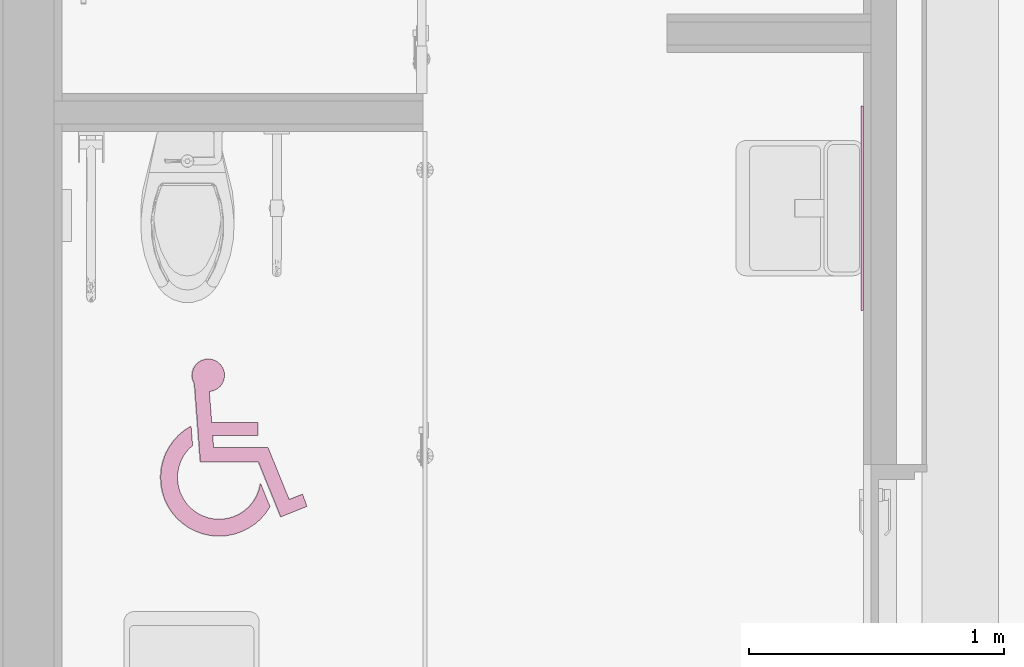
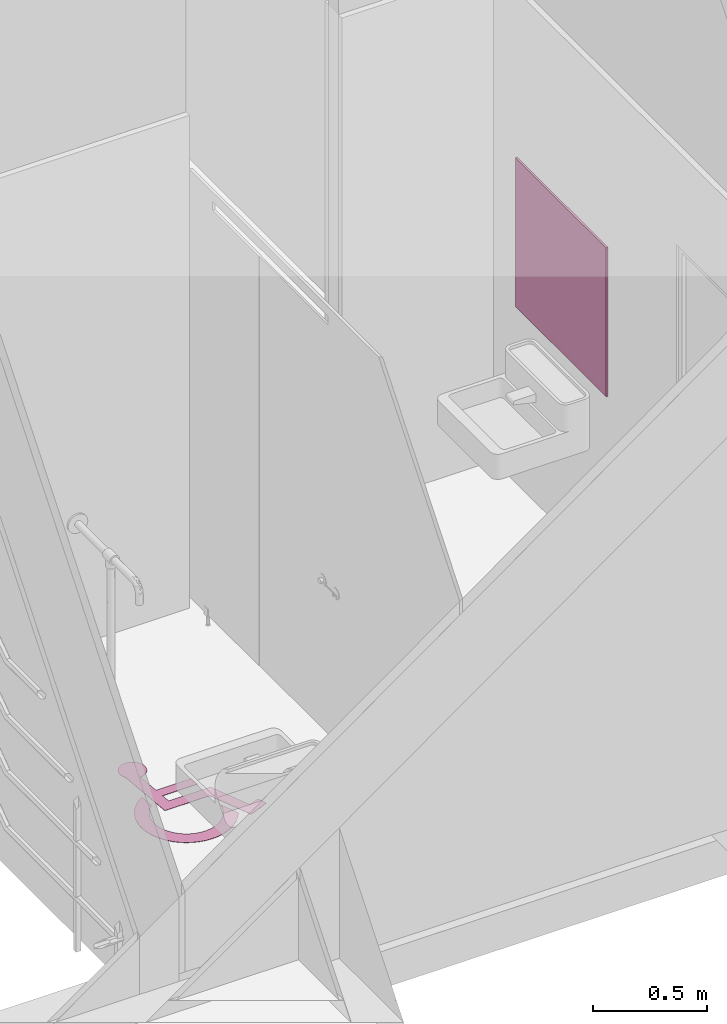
# One storey, part 72 of 74: 2 furnishings.
"""IFC2X3 building model written with IfcOpenShell, lengths in millimetres."""

from ifc_helpers import new_model, entity, si_unit, converted_unit, derived_unit, direction, frame, frame_2d, origin, origin_2d_with_axis, place, context, subcontext, project, spatial, polyline, circle_curve, parameter, trimmed, segment, composite_curve, rectangle, outline, extrude, source, transform, mapped, material, material_list, type_object, type_shapes, element, save


model = new_model("IFC2X3")

# Units and contexts
model_context = context("Model", 3, precision=0.01, world=origin(), true_north=direction((6.123031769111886e-17, 1.0)))
body_context = subcontext(model_context, "Body", "Model", "MODEL_VIEW")
ifc_project = project(units=[si_unit("LENGTHUNIT", "METRE", prefix="MILLI"), si_unit("AREAUNIT", "SQUARE_METRE"), si_unit("VOLUMEUNIT", "CUBIC_METRE"), converted_unit("PLANEANGLEUNIT", "DEGREE", entity("IfcRatioMeasure", 0.017453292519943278), si_unit("PLANEANGLEUNIT", "RADIAN"), dimensions=[0, 0, 0, 0, 0, 0, 0]), si_unit("MASSUNIT", "GRAM", prefix="KILO"), derived_unit("MASSDENSITYUNIT", [(si_unit("MASSUNIT", "GRAM", prefix="KILO"), 1), (si_unit("LENGTHUNIT", "METRE"), -3)]), derived_unit("MOMENTOFINERTIAUNIT", [(si_unit("LENGTHUNIT", "METRE"), 4)]), si_unit("TIMEUNIT", "SECOND"), si_unit("FREQUENCYUNIT", "HERTZ"), si_unit("THERMODYNAMICTEMPERATUREUNIT", "DEGREE_CELSIUS"), derived_unit("THERMALTRANSMITTANCEUNIT", [(si_unit("MASSUNIT", "GRAM", prefix="KILO"), 1), (si_unit("THERMODYNAMICTEMPERATUREUNIT", "KELVIN"), -1), (si_unit("TIMEUNIT", "SECOND"), -3)]), derived_unit("VOLUMETRICFLOWRATEUNIT", [(si_unit("LENGTHUNIT", "METRE"), 3), (si_unit("TIMEUNIT", "SECOND"), -1)]), derived_unit("MASSFLOWRATEUNIT", [(si_unit("MASSUNIT", "GRAM", prefix="KILO"), 1), (si_unit("TIMEUNIT", "SECOND"), -1)]), derived_unit("ROTATIONALFREQUENCYUNIT", [(si_unit("TIMEUNIT", "SECOND"), -1)]), si_unit("ELECTRICCURRENTUNIT", "AMPERE"), si_unit("ELECTRICVOLTAGEUNIT", "VOLT"), si_unit("POWERUNIT", "WATT"), si_unit("FORCEUNIT", "NEWTON", prefix="KILO"), si_unit("ILLUMINANCEUNIT", "LUX"), si_unit("LUMINOUSFLUXUNIT", "LUMEN"), si_unit("LUMINOUSINTENSITYUNIT", "CANDELA"), derived_unit("USERDEFINED", [(si_unit("MASSUNIT", "GRAM", prefix="KILO"), -1), (si_unit("LENGTHUNIT", "METRE"), -2), (si_unit("TIMEUNIT", "SECOND"), 3), (si_unit("LUMINOUSFLUXUNIT", "LUMEN"), 1)]), derived_unit("SOUNDPOWERUNIT", [(si_unit("MASSUNIT", "GRAM", prefix="KILO"), 1), (si_unit("LENGTHUNIT", "METRE"), 2), (si_unit("TIMEUNIT", "SECOND"), -3)]), derived_unit("SOUNDPRESSUREUNIT", [(si_unit("MASSUNIT", "GRAM", prefix="KILO"), 1), (si_unit("LENGTHUNIT", "METRE"), -1), (si_unit("TIMEUNIT", "SECOND"), -2)]), derived_unit("LINEARVELOCITYUNIT", [(si_unit("LENGTHUNIT", "METRE"), 1), (si_unit("TIMEUNIT", "SECOND"), -1)]), si_unit("PRESSUREUNIT", "PASCAL"), derived_unit("USERDEFINED", [(si_unit("LENGTHUNIT", "METRE"), -2), (si_unit("MASSUNIT", "GRAM", prefix="KILO"), 1), (si_unit("TIMEUNIT", "SECOND"), -2)]), derived_unit("LINEARFORCEUNIT", [(si_unit("MASSUNIT", "GRAM", prefix="KILO"), 1), (si_unit("LENGTHUNIT", "METRE"), 1), (si_unit("TIMEUNIT", "SECOND"), -2), (si_unit("LENGTHUNIT", "METRE"), -1)]), derived_unit("PLANARFORCEUNIT", [(si_unit("MASSUNIT", "GRAM", prefix="KILO"), 1), (si_unit("LENGTHUNIT", "METRE"), 1), (si_unit("TIMEUNIT", "SECOND"), -2), (si_unit("LENGTHUNIT", "METRE"), -2)])], contexts=[model_context])

# Site, building, storey, space
site_placement = place(None, frame((-14167.972527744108, -657.2125860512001, 0.0)))
site = spatial("IfcSite", under=ifc_project, at=site_placement, Name="Default", CompositionType="ELEMENT")
building_placement = place(site_placement, origin())
building = spatial("IfcBuilding", under=site, at=building_placement, Name="Sample Building", CompositionType="ELEMENT")
storey_placement = place(building_placement, frame((0.0, 0.0, 4800.0)))
storey = spatial("IfcBuildingStorey", under=building, at=storey_placement, Name="지상 2층", CompositionType="ELEMENT", Elevation=4800.000000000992)
space_placement = place(storey_placement, origin())
space = spatial("IfcSpace", under=storey, at=space_placement, Name="188", CompositionType="ELEMENT", InteriorOrExteriorSpace="INTERNAL")

# Furnishings
ifc_material_1 = material(Name="KBIMS-거울")
furniture_type_1 = type_object("IfcFurnitureType", Name="PF531-거울:PF531-거울 800x800", material=ifc_material_1)
shared_shape_1 = source(origin(), body_context, "Body", "SweptSolid", [
    extrude(rectangle(XDim=10.000000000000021, YDim=799.9999999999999, at=origin_2d_with_axis()), frame((0.0, 5.0, 0.0), z_axis=(0.0, 0.0, 1.0), x_axis=(0.0, 1.0, 0.0)), (0.0, 0.0, 1.0), 800.0000000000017),
])
type_shapes(furniture_type_1, [shared_shape_1])
furnishing_1_placement = place(space_placement, frame((36237.96375501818, 24567.313063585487, 1000.0), z_axis=(0.0, 0.0, 1.0), x_axis=(0.0, 1.0, 0.0)))
element("IfcFurnishingElement", 1, at=furnishing_1_placement, inside=space, type_object=furniture_type_1, material=ifc_material_1, Name="PF531-거울:PF531-거울 800x800", ObjectType="PF531-거울:PF531-거울 800x800", context=body_context, shape_type="MappedRepresentation", body=[
    mapped(shared_shape_1, transform((0.0, 0.0, 0.0), scale=1.0)),
])
ifc_material_2 = material(Name="KBIMS-노면용 페인트_진하늘색")
ifc_material_list = material_list([ifc_material_2, ifc_material_2])
furniture_type_2 = type_object("IfcFurnitureType", Name="SE251-장애인전용 표시:SE251-장애인전용 표시", material=ifc_material_list)
shared_shape_2 = source(origin(), body_context, "Body", "SweptSolid", [
    extrude(outline(composite_curve([segment(trimmed(circle_curve(frame_2d((-36.68855283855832, -47.74251805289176), x_axis=(1.0, 0.0)), 229.68578343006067), [parameter(118.63343780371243)], [parameter(330.18087778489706)], True, "PARAMETER"), True, "CONTINUOUS"), segment(polyline([(162.58672770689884, -161.9568852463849), (125.13875807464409, -69.8626552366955)]), True, "CONTINUOUS"), segment(trimmed(circle_curve(frame_2d((-36.68855283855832, -47.74251805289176), x_axis=(1.0, 0.0)), 163.33211266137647), [parameter(129.67752554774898)], [parameter(352.21649007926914)], True, "PARAMETER"), False, "CONTINUOUS"), segment(polyline([(-140.97054841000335, 77.96605136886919), (-146.7549373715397, 153.85348911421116)]), True, "CONTINUOUS")], self_intersect=False)), frame((71.31807136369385, -37.57408412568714, 0.0)), (0.0, 0.0, 1.0), 1.5875),
    extrude(outline(composite_curve([segment(polyline([(-282.31222354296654, -186.97456283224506), (25.012127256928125, -186.974562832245)]), True, "CONTINUOUS"), segment(polyline([(25.012127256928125, -186.974562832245), (42.305091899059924, 39.89793596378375)]), True, "CONTINUOUS"), segment(polyline([(42.30509189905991, 39.89793596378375), (263.5159692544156, 110.7895168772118)]), True, "CONTINUOUS"), segment(polyline([(263.5159692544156, 110.7895168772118), (230.53394569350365, 215.81642815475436)]), True, "CONTINUOUS"), segment(polyline([(230.53394569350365, 215.81642815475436), (181.07321552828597, 202.95741624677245)]), True, "CONTINUOUS"), segment(polyline([(181.07321552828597, 202.95741624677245), (198.08692429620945, 148.77950087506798)]), True, "CONTINUOUS"), segment(polyline([(198.08692429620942, 148.77950087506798), (-10.806586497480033, 81.83527372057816)]), True, "CONTINUOUS"), segment(polyline([(-10.806586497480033, 81.83527372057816), (-27.016565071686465, -130.829149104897)]), True, "CONTINUOUS"), segment(polyline([(-27.01656507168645, -130.829149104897), (-74.51295100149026, -130.82914910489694)]), True, "CONTINUOUS"), segment(polyline([(-74.51295100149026, -130.82914910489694), (-60.984513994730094, 46.65518467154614)]), True, "CONTINUOUS"), segment(polyline([(-60.984513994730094, 46.65518467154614), (-111.87816757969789, 50.53446557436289)]), True, "CONTINUOUS"), segment(polyline([(-111.87816757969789, 50.53446557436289), (-125.70229607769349, -130.82914910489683)]), True, "CONTINUOUS"), segment(polyline([(-125.70229607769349, -130.82914910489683), (-247.3139701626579, -130.8291491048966)]), True, "CONTINUOUS"), segment(trimmed(circle_curve(frame_2d((-311.1107235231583, -130.04222235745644), x_axis=(0.07600280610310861, 0.9971076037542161)), 63.80160650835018), [parameter(273.6521413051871)], [parameter(211.19083029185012)], True, "PARAMETER"), True, "CONTINUOUS")], self_intersect=False)), frame((145.3871253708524, 15.097937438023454, 0.0), z_axis=(0.0, 0.0, 1.0), x_axis=(0.07600280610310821, -0.9971076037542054, 0.0)), (0.0, 0.0, 1.0), 1.5875),
])
type_shapes(furniture_type_2, [shared_shape_2])
furnishing_2_placement = place(space_placement, frame((33679.72696224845, 23597.21230348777, 40.0)))
element("IfcFurnishingElement", 2, at=furnishing_2_placement, inside=space, type_object=furniture_type_2, material=ifc_material_2, Name="SE251-장애인전용 표시:SE251-장애인전용 표시", ObjectType="SE251-장애인전용 표시:SE251-장애인전용 표시", context=body_context, shape_type="MappedRepresentation", body=[
    mapped(shared_shape_2, transform((0.0, 0.0, 0.0), scale=1.0)),
])

save(model, "model.ifc")
